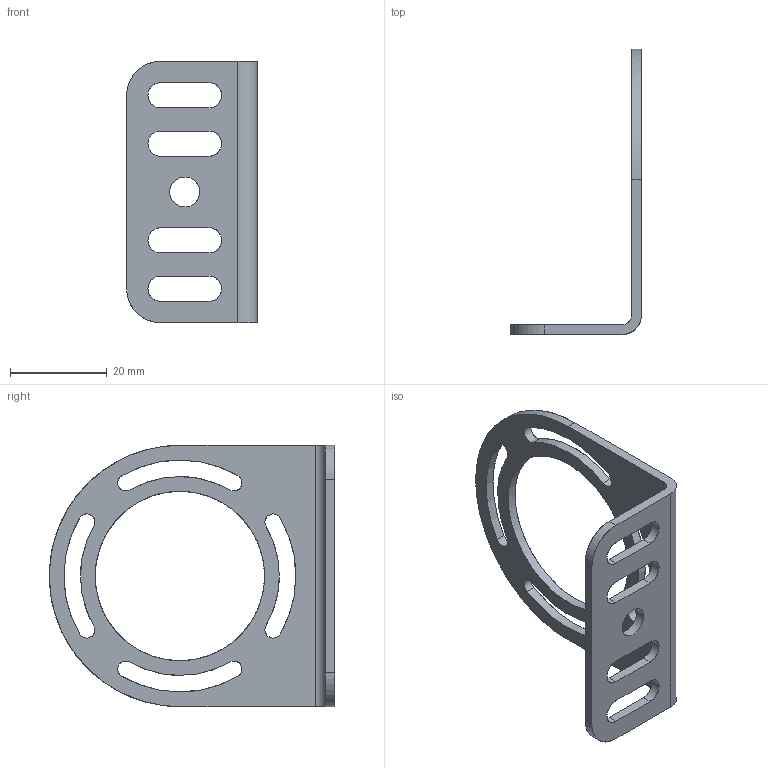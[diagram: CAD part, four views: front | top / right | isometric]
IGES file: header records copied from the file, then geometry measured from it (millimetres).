
Global section: file name: C:\Users\LRossetti\Desktop\DSD_DIM\DSD-0785.igs; native system: NX V10.0; preprocessor: SIEMENS PLM Software NX 10.0; date: 20160829.175358; units: millimetre
Bounding box: 27 x 59 x 54 mm (x, y, z)
Surface area: 6483.8 mm2 (no closed solid volume)
Topology: 0 solids, 0 shells, 46 faces, 446 edges, 446 vertices
Faces by surface type: bspline 46
